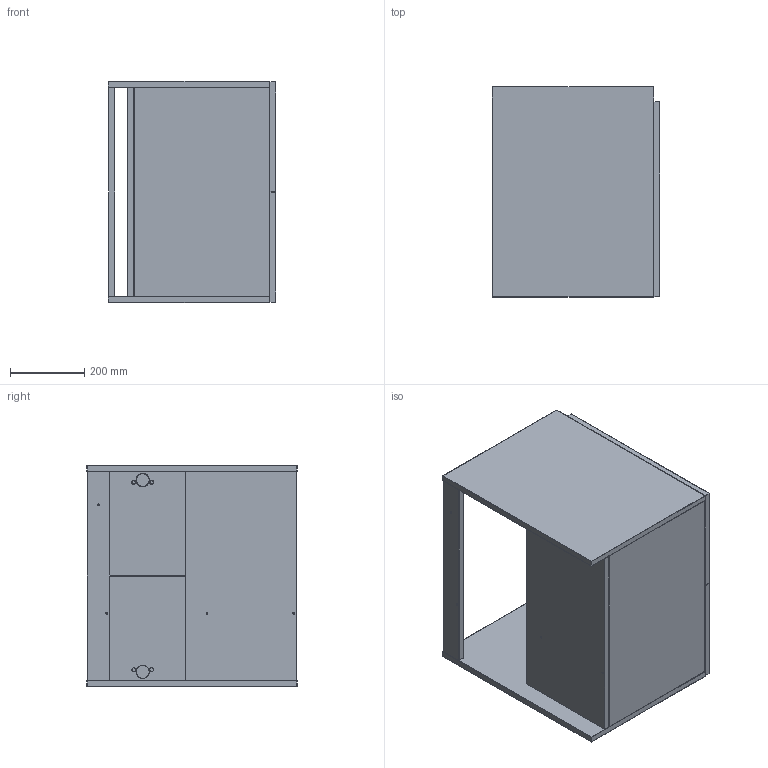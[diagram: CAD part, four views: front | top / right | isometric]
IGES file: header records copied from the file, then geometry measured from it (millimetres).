
Start section: SolidWorks IGES file using analytic representation for surfaces
Global section: file name: D:\DOWNLOADS\BBOX_MUEBLE 60 2P_F.IGS; native system: SolidWorks 2021; preprocessor: SolidWorks 2021; author: LINECA; date: 211129.112039; units: millimetre
Bounding box: 450 x 565 x 595 mm (x, y, z)
Surface area: 3146914 mm2 (no closed solid volume)
Topology: 0 solids, 0 shells, 301 faces, 3380 edges, 3332 vertices
Faces by surface type: bspline 253, revolution 48
